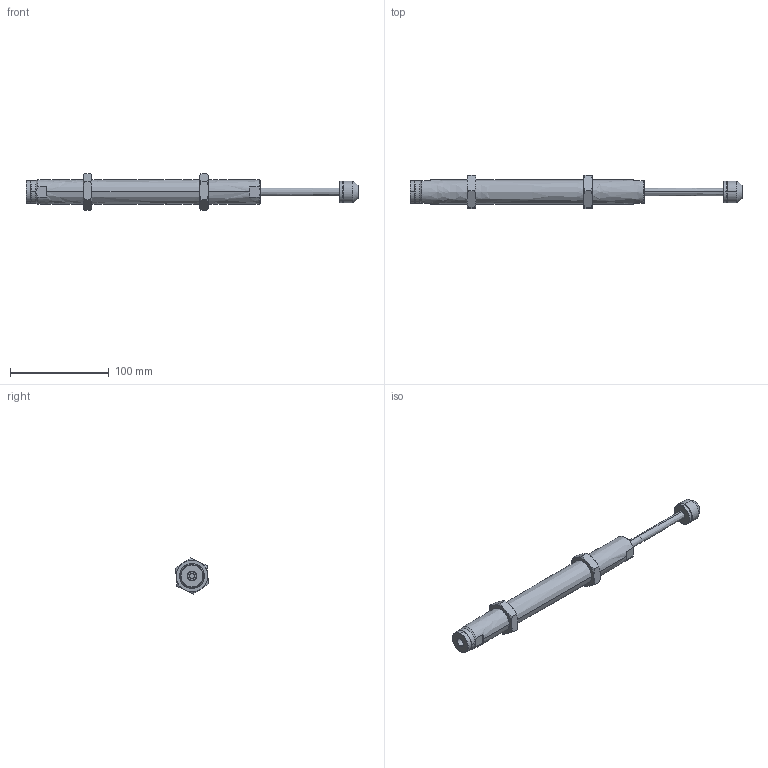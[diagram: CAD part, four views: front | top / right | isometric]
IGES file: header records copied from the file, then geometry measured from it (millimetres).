
Start section: SolidWorks IGES file using analytic representation for surfaces
Global section: file name: D:\IGS跡宒\AC2580QY(P2.0)-SH.IGS,1; native system: 5HSolidWorks 2013; preprocessor: SolidWorks 2013; author: Administrator; date: 160412.110017; units: inch
Bounding box: 335.7 x 33.36 x 36.83 mm (x, y, z)
Surface area: 29049.9 mm2 (no closed solid volume)
Topology: 0 solids, 0 shells, 113 faces, 1660 edges, 1660 vertices
Faces by surface type: revolution 80, bspline 33
